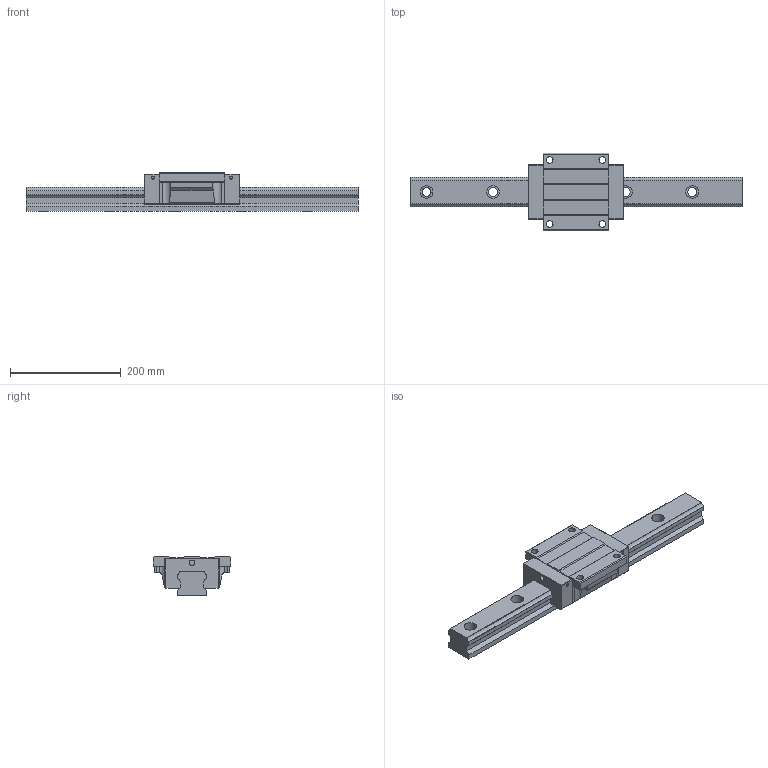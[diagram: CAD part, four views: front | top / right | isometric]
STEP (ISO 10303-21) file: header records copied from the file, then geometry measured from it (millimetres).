
FILE_DESCRIPTION (( 'STEP AP203' ), '1' );
FILE_NAME ('TRH55FL-ZN.STEP', '2024-05-15T03:01:26', ( '' ), ( '' ), 'SwSTEP 2.0', 'SolidWorks 2022', '' );
FILE_SCHEMA (( 'CONFIG_CONTROL_DESIGN' ));
Length unit declared in the file: millimetre
Products named in the file (1): TRH55FL-ZN
Bounding box: 600 x 140 x 70 mm (x, y, z)
Volume: 1950046.2 mm3; surface area: 223851.2 mm2
Topology: 2 solids, 2 shells, 201 faces, 546 edges, 356 vertices
Faces by surface type: plane 101, cylinder 96, sphere 4
Entity records: 6554 total; most frequent: CARTESIAN_POINT 1263, DIRECTION 1108, ORIENTED_EDGE 1084, EDGE_CURVE 542, AXIS2_PLACEMENT_3D 384, VERTEX_POINT 356, LINE 340, VECTOR 340
